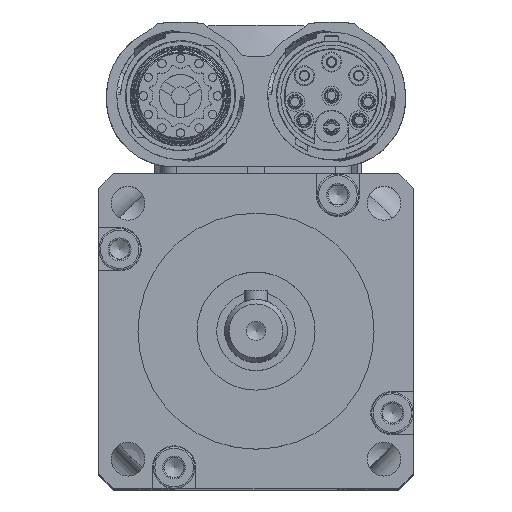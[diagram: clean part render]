
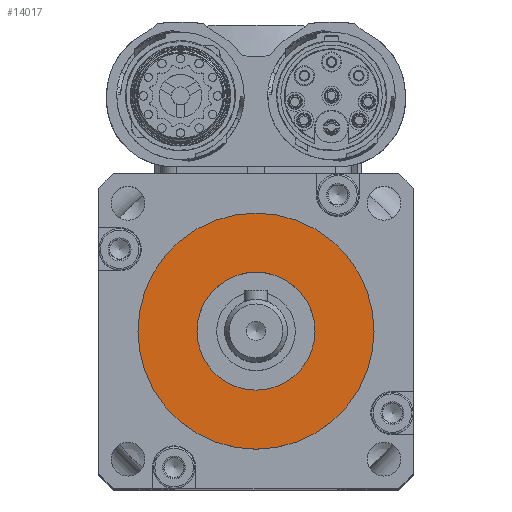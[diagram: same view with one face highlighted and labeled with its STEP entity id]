
A CAD part, top view. The second image highlights one B-rep face of the part: STEP entity #14017.
In plain terms, the highlighted planar face has unit normal (0, 0, 1).
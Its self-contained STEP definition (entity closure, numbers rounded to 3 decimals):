
#2989=PLANE('',#14952);
#3368=FACE_BOUND('',#4604,.T.);
#3369=FACE_BOUND('',#4605,.T.);
#4604=EDGE_LOOP('',(#9917));
#4605=EDGE_LOOP('',(#9918));
#5795=CIRCLE('',#14948,7.5);
#5796=CIRCLE('',#14950,15.);
#6546=VERTEX_POINT('',#20752);
#6547=VERTEX_POINT('',#20755);
#7943=EDGE_CURVE('',#6546,#6546,#5795,.T.);
#7944=EDGE_CURVE('',#6547,#6547,#5796,.T.);
#9917=ORIENTED_EDGE('',*,*,#7943,.T.);
#9918=ORIENTED_EDGE('',*,*,#7944,.T.);
#14017=ADVANCED_FACE('',(#3368,#3369),#2989,.T.);
#14948=AXIS2_PLACEMENT_3D('',#20753,#16691,#16692);
#14950=AXIS2_PLACEMENT_3D('',#20756,#16695,#16696);
#14952=AXIS2_PLACEMENT_3D('',#20759,#16699,#16700);
#16691=DIRECTION('center_axis',(0.,0.,-1.));
#16692=DIRECTION('ref_axis',(-1.,0.,0.));
#16695=DIRECTION('center_axis',(0.,0.,1.));
#16696=DIRECTION('ref_axis',(-1.,0.,0.));
#16699=DIRECTION('center_axis',(0.,0.,1.));
#16700=DIRECTION('ref_axis',(1.,0.,0.));
#20752=CARTESIAN_POINT('',(7.5,0.,33.5));
#20753=CARTESIAN_POINT('Origin',(0.,0.,33.5));
#20755=CARTESIAN_POINT('',(15.,0.,33.5));
#20756=CARTESIAN_POINT('Origin',(0.,0.,33.5));
#20759=CARTESIAN_POINT('Origin',(0.,0.,
33.5));
